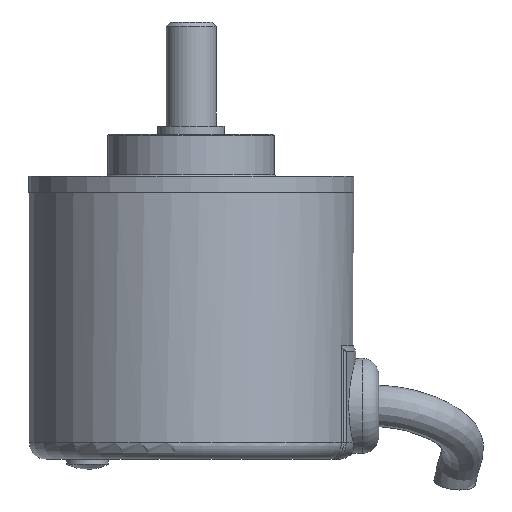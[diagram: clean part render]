
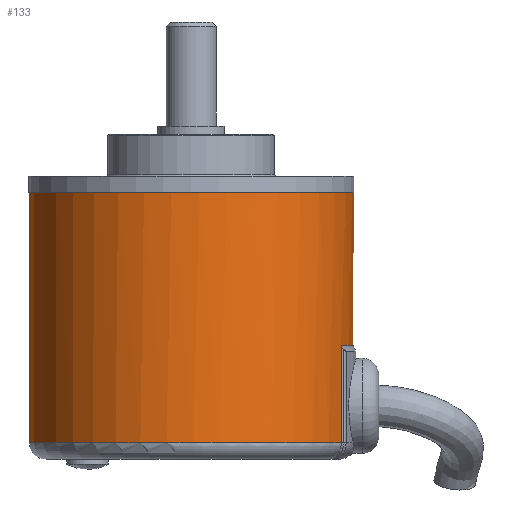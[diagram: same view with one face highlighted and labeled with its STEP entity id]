
A CAD part, left-side view. The second image highlights one B-rep face of the part: STEP entity #133.
In plain terms, the highlighted cylindrical face has radius 19.5 mm (diameter 39 mm), a full revolution.
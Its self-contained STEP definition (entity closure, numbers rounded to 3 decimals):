
#133=ADVANCED_FACE('',(#771,#773),#775,.T.);
#771=FACE_BOUND('',#772,.T.);
#772=EDGE_LOOP('',(#1637,#1638));
#773=FACE_BOUND('',#774,.T.);
#774=EDGE_LOOP('',(#1639,#1640,#1641,#1642,#1643));
#775=CYLINDRICAL_SURFACE('',#776,19.5);
#776=AXIS2_PLACEMENT_3D('',#777,#778,#779);
#777=CARTESIAN_POINT('',(0.,0.,32.));
#778=DIRECTION('',(0.,0.,-1.));
#779=DIRECTION('',(1.,0.,0.));
#1637=ORIENTED_EDGE('',*,*,#1872,.T.);
#1638=ORIENTED_EDGE('',*,*,#1873,.T.);
#1639=ORIENTED_EDGE('',*,*,#1874,.T.);
#1640=ORIENTED_EDGE('',*,*,#1875,.T.);
#1641=ORIENTED_EDGE('',*,*,#1876,.T.);
#1642=ORIENTED_EDGE('',*,*,#1877,.T.);
#1643=ORIENTED_EDGE('',*,*,#1878,.T.);
#1872=EDGE_CURVE('',#2005,#2006,#2007,.T.);
#1873=EDGE_CURVE('',#2006,#2005,#2008,.T.);
#1874=EDGE_CURVE('',#2009,#2010,#2011,.T.);
#1875=EDGE_CURVE('',#2010,#2012,#2013,.T.);
#1876=EDGE_CURVE('',#2012,#2014,#2015,.T.);
#1877=EDGE_CURVE('',#2014,#2016,#2017,.T.);
#1878=EDGE_CURVE('',#2016,#2009,#2018,.T.);
#2005=VERTEX_POINT('',#2446);
#2006=VERTEX_POINT('',#2447);
#2007=CIRCLE('',#2448,19.5);
#2008=CIRCLE('',#2452,19.5);
#2009=VERTEX_POINT('',#2456);
#2010=VERTEX_POINT('',#2457);
#2011=LINE('',#2458,#2459);
#2012=VERTEX_POINT('',#2461);
#2013=CIRCLE('',#2462,19.5);
#2014=VERTEX_POINT('',#2466);
#2015=CIRCLE('',#2467,19.5);
#2016=VERTEX_POINT('',#2471);
#2017=LINE('',#2472,#2473);
#2018=CIRCLE('',#2475,19.5);
#2446=CARTESIAN_POINT('',(19.5,0.,32.));
#2447=CARTESIAN_POINT('',(-10.814,16.227,32.));
#2448=AXIS2_PLACEMENT_3D('',#2449,#2450,#2451);
#2449=CARTESIAN_POINT('',(0.,0.,32.));
#2450=DIRECTION('',(0.,0.,-1.));
#2451=DIRECTION('',(1.,0.,0.));
#2452=AXIS2_PLACEMENT_3D('',#2453,#2454,#2455);
#2453=CARTESIAN_POINT('',(0.,0.,32.));
#2454=DIRECTION('',(0.,0.,-1.));
#2455=DIRECTION('',(-0.555,0.832,0.));
#2456=CARTESIAN_POINT('',(7.507,-17.997,13.661));
#2457=CARTESIAN_POINT('',(7.507,-17.997,2.));
#2458=CARTESIAN_POINT('',(7.507,-17.997,13.661));
#2459=VECTOR('',#2460,1.);
#2460=DIRECTION('',(0.,0.,-1.));
#2461=CARTESIAN_POINT('',(-10.814,16.227,2.));
#2462=AXIS2_PLACEMENT_3D('',#2463,#2464,#2465);
#2463=CARTESIAN_POINT('',(0.,0.,2.));
#2464=DIRECTION('',(0.,0.,1.));
#2465=DIRECTION('',(0.385,-0.923,0.));
#2466=CARTESIAN_POINT('',(-7.507,-17.997,2.));
#2467=AXIS2_PLACEMENT_3D('',#2468,#2469,#2470);
#2468=CARTESIAN_POINT('',(0.,0.,2.));
#2469=DIRECTION('',(0.,0.,1.));
#2470=DIRECTION('',(-0.555,0.832,0.));
#2471=CARTESIAN_POINT('',(-7.507,-17.997,13.661));
#2472=CARTESIAN_POINT('',(-7.507,-17.997,2.));
#2473=VECTOR('',#2474,1.);
#2474=DIRECTION('',(0.,0.,1.));
#2475=AXIS2_PLACEMENT_3D('',#2476,#2477,#2478);
#2476=CARTESIAN_POINT('',(0.,0.,13.661));
#2477=DIRECTION('',(0.,0.,1.));
#2478=DIRECTION('',(-0.385,-0.923,0.));
